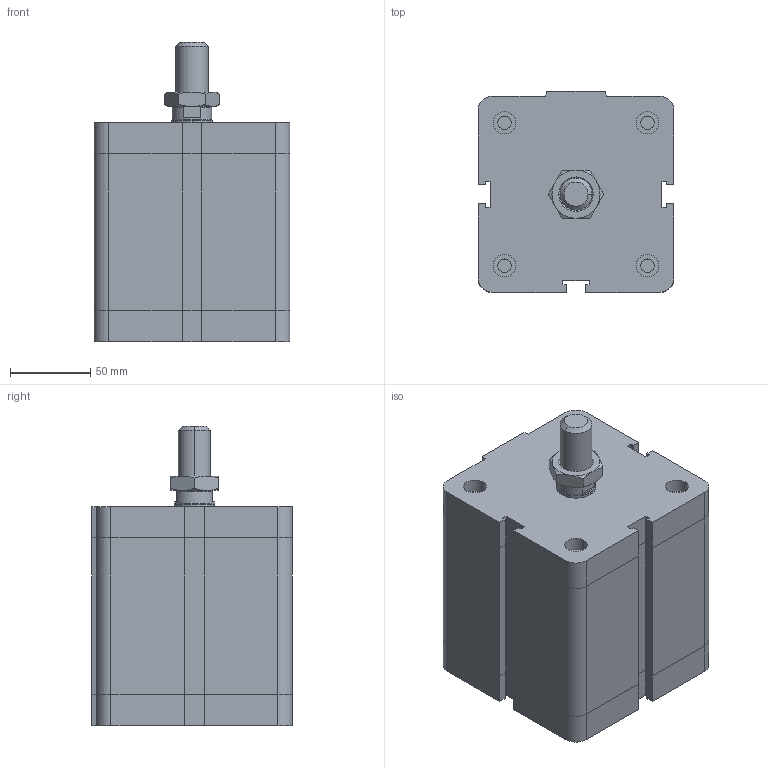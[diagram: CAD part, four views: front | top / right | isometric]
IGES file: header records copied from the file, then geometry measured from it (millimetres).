
Global section: file name: No Iges File Name specified; native system: Autodesk Inventor 2009; preprocessor: AutoDesk Inventor Iges Exporter R2009; author: rivolro1; date: 20081219.161032; units: millimetre
Bounding box: 122 x 125 x 186.5 mm (x, y, z)
Volume: 1997528.5 mm3; surface area: 131528.2 mm2
Topology: 3 solids, 3 shells, 216 faces, 472 edges, 282 vertices
Faces by surface type: plane 121, bspline 37, cylinder 20, cone 20, revolution 18
